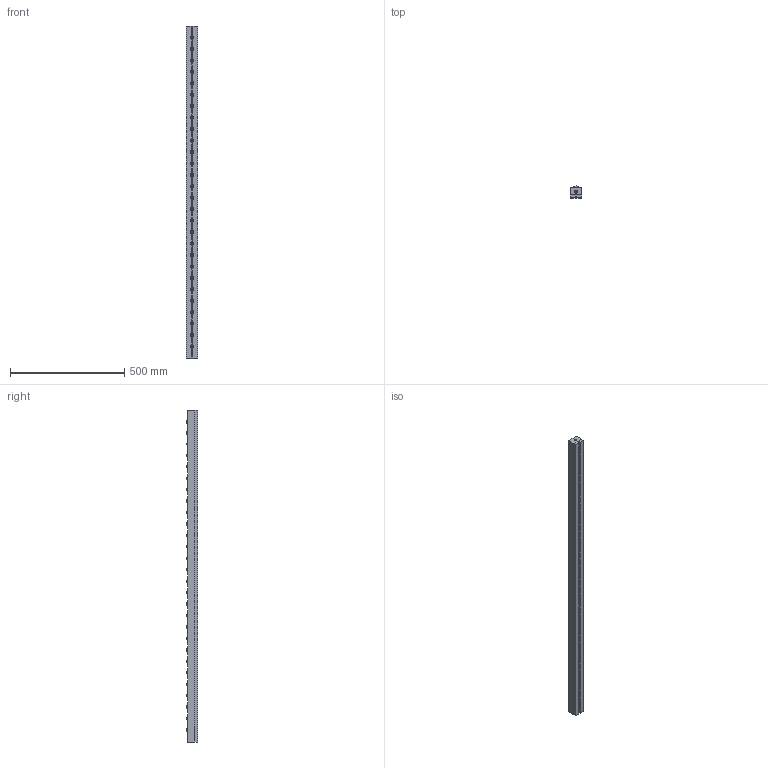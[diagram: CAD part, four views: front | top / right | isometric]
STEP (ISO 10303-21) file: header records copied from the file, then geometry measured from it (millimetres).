
FILE_DESCRIPTION (( 'STEP AP203' ), '1' );
FILE_NAME ('PVL55SH-28.STEP', '2016-02-18T08:59:18', ( '' ), ( '' ), 'SwSTEP 2.0', 'SolidWorks 2013', '' );
FILE_SCHEMA (( 'CONFIG_CONTROL_DESIGN' ));
Length unit declared in the file: millimetre
Products named in the file (1): PVL55SH-28
Bounding box: 49 x 50 x 1450 mm (x, y, z)
Volume: 3077493.9 mm3; surface area: 493429.2 mm2
Topology: 2 solids, 2 shells, 1191 faces, 2564 edges, 1717 vertices
Faces by surface type: cylinder 690, plane 441, sphere 56, cone 4
Entity records: 33291 total; most frequent: DIRECTION 6554, CARTESIAN_POINT 5471, ORIENTED_EDGE 5124, AXIS2_PLACEMENT_3D 2800, EDGE_CURVE 2562, VERTEX_POINT 1717, CIRCLE 1608, EDGE_LOOP 1541
